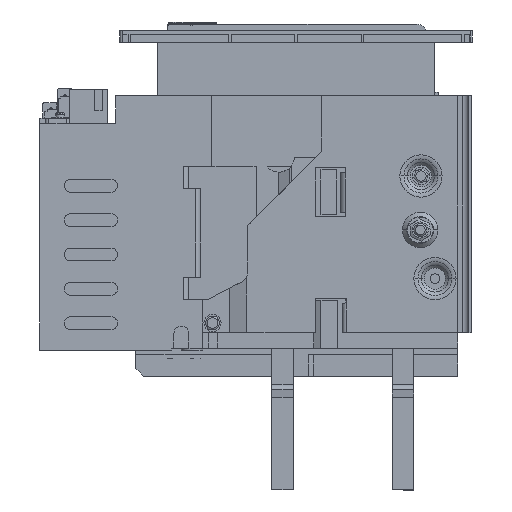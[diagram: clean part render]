
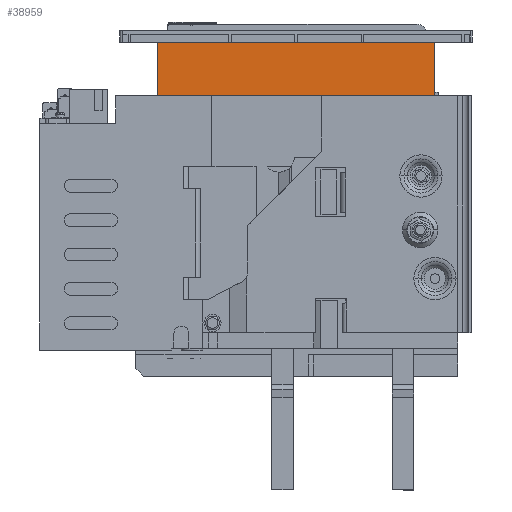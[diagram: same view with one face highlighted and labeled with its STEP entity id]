
A CAD part, left-side view. The second image highlights one B-rep face of the part: STEP entity #38959.
In plain terms, the highlighted planar face has unit normal (-1, 0, 0) as drawn and (0, -1, 0) by its records, which use the part's own axes.
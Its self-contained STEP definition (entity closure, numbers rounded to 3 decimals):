
#182 = DIRECTION ( 'NONE',  ( 0., 0., 1. ) ) ;
#780 = VERTEX_POINT ( 'NONE', #55294 ) ;
#1840 = ORIENTED_EDGE ( 'NONE', *, *, #15812, .T. ) ;
#3825 = VERTEX_POINT ( 'NONE', #111066 ) ;
#5478 = VECTOR ( 'NONE', #9539, 1000. ) ;
#5634 = CARTESIAN_POINT ( 'NONE',  ( 184.014, -177.745, 36.148 ) ) ;
#9539 = DIRECTION ( 'NONE',  ( 1., 0., 0. ) ) ;
#11317 = EDGE_CURVE ( 'NONE', #3825, #780, #98744, .T. ) ;
#14388 = DIRECTION ( 'NONE',  ( 0., 0., 1. ) ) ;
#15812 = EDGE_CURVE ( 'NONE', #17338, #76621, #28122, .T. ) ;
#17338 = VERTEX_POINT ( 'NONE', #116044 ) ;
#18836 = CARTESIAN_POINT ( 'NONE',  ( 135.862, -177.745, 34.148 ) ) ;
#20638 = CARTESIAN_POINT ( 'NONE',  ( 191.362, -177.745, 34.148 ) ) ;
#28122 = LINE ( 'NONE', #20638, #62659 ) ;
#32311 = DIRECTION ( 'NONE',  ( 0., 0., -1. ) ) ;
#33549 = FACE_OUTER_BOUND ( 'NONE', #66138, .T. ) ;
#34162 = PLANE ( 'NONE',  #111113 ) ;
#35421 = EDGE_CURVE ( 'NONE', #3825, #17338, #74672, .T. ) ;
#35737 = VECTOR ( 'NONE', #112959, 1000. ) ;
#36023 = LINE ( 'NONE', #84388, #35737 ) ;
#38959 = ADVANCED_FACE ( 'NONE', ( #33549 ), #34162, .T. ) ;
#39038 = CARTESIAN_POINT ( 'NONE',  ( 191.362, -177.745, 292.277 ) ) ;
#42222 = DIRECTION ( 'NONE',  ( 0., -1., 0. ) ) ;
#55294 = CARTESIAN_POINT ( 'NONE',  ( 135.862, -177.745, 292.277 ) ) ;
#61124 = VECTOR ( 'NONE', #14388, 1000. ) ;
#62659 = VECTOR ( 'NONE', #182, 1000. ) ;
#66107 = ORIENTED_EDGE ( 'NONE', *, *, #35421, .T. ) ;
#66138 = EDGE_LOOP ( 'NONE', ( #66107, #1840, #120020, #101661 ) ) ;
#73589 = EDGE_CURVE ( 'NONE', #76621, #780, #36023, .T. ) ;
#74672 = LINE ( 'NONE', #18836, #5478 ) ;
#76621 = VERTEX_POINT ( 'NONE', #39038 ) ;
#84388 = CARTESIAN_POINT ( 'NONE',  ( 191.362, -177.745, 292.277 ) ) ;
#98744 = LINE ( 'NONE', #99344, #61124 ) ;
#99344 = CARTESIAN_POINT ( 'NONE',  ( 135.862, -177.745, 34.148 ) ) ;
#101661 = ORIENTED_EDGE ( 'NONE', *, *, #11317, .F. ) ;
#111066 = CARTESIAN_POINT ( 'NONE',  ( 135.862, -177.745, 34.148 ) ) ;
#111113 = AXIS2_PLACEMENT_3D ( 'NONE', #5634, #42222, #32311 ) ;
#112959 = DIRECTION ( 'NONE',  ( -1., 0., 0. ) ) ;
#116044 = CARTESIAN_POINT ( 'NONE',  ( 191.362, -177.745, 34.148 ) ) ;
#120020 = ORIENTED_EDGE ( 'NONE', *, *, #73589, .T. ) ;
